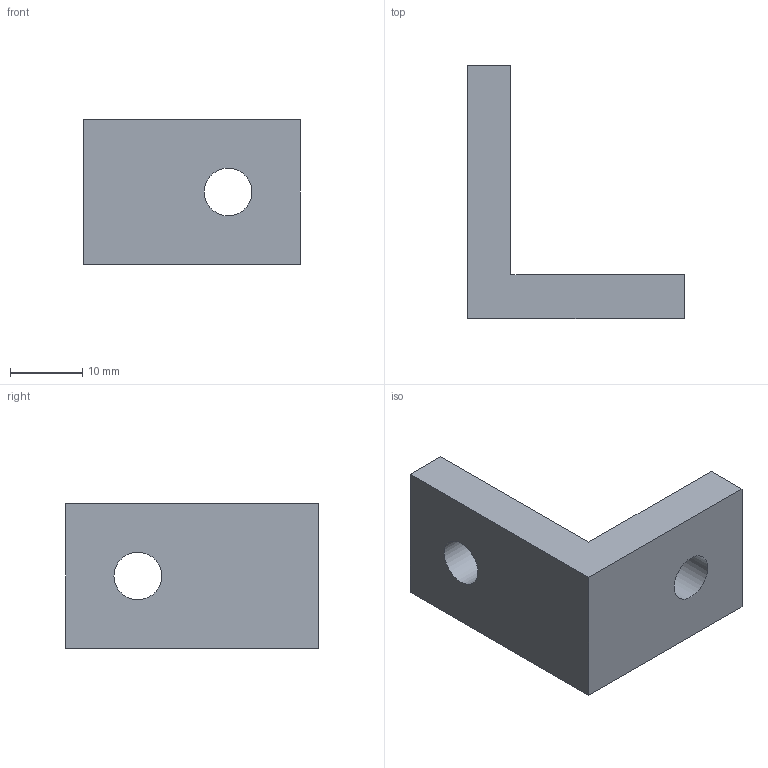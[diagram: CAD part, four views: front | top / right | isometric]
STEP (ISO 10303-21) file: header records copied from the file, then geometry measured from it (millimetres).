
FILE_DESCRIPTION(/* description */ ('Unknown'),/* implementation_level */ '2;1');
FILE_NAME(/* name */ '4_Angle',/* time_stamp */ '2020-07-03T18:47:19+02:00',/* author */ ('Unknown'),/* organization */ ('Unknown'),/* preprocessor_version */ 'ST-DEVELOPER v16.7',/* originating_system */ 'Solid Edge',/* authorisation */ 'Unknown');
FILE_SCHEMA (('AUTOMOTIVE_DESIGN {1 0 10303 214 3 1 1}'));
Length unit declared in the file: millimetre
Products named in the file (1): 4_Angle
Bounding box: 30 x 35 x 20 mm (x, y, z)
Volume: 6669.5 mm3; surface area: 3420 mm2
Topology: 1 solids, 1 shells, 10 faces, 26 edges, 18 vertices
Faces by surface type: plane 8, cylinder 2
Full cylindrical faces by diameter (mm): 6.6 x2
Entity records: 320 total; most frequent: CARTESIAN_POINT 49, DIRECTION 48, ORIENTED_EDGE 44, EDGE_CURVE 22, LINE 18, VECTOR 18, VERTEX_POINT 16, EDGE_LOOP 16
